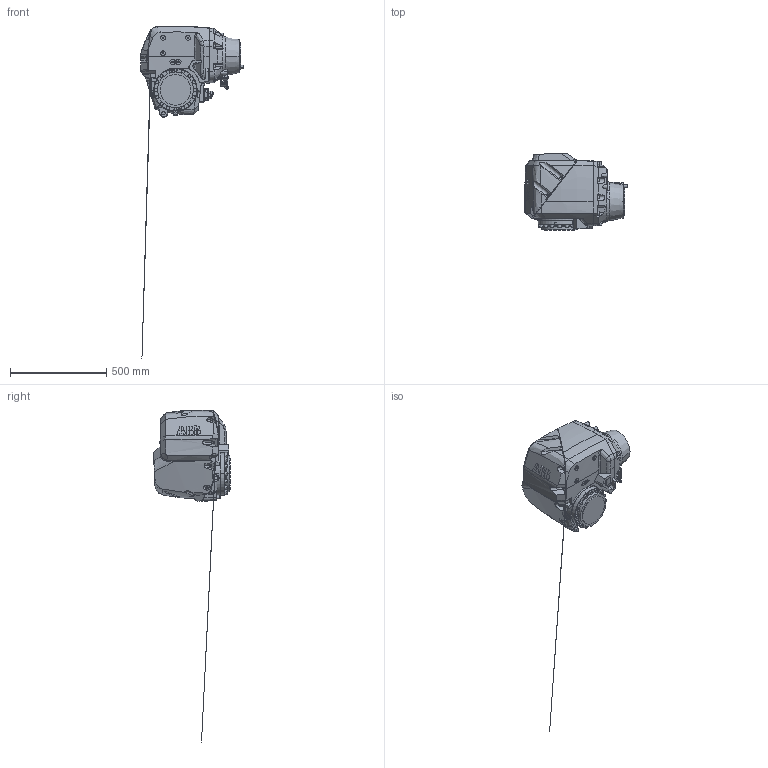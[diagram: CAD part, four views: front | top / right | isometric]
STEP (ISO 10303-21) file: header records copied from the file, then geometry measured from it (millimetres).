
FILE_DESCRIPTION (( 'STEP AP214' ), '1' );
FILE_NAME ('IRB4600_60kg-205_LINK3_CAD_rev04.STEP', '2016-12-06T10:36:01', ( 'ABB' ), ( 'ABB' ), 'SwSTEP 2.0', 'SolidWorks 2014', '' );
FILE_SCHEMA (( 'AUTOMOTIVE_DESIGN' ));
Length unit declared in the file: millimetre
Products named in the file (1): IRB4600_60kg-205_LINK3_CAD_rev04
Bounding box: 533.59 x 398.61 x 1726.97 mm (x, y, z)
Volume: 51158493.6 mm3; surface area: 1002881.2 mm2
Topology: 2 solids, 2 shells, 1073 faces, 2766 edges, 1758 vertices
Faces by surface type: plane 490, cylinder 264, cone 135, bspline 123, torus 54, sphere 7
Entity records: 59007 total; most frequent: CARTESIAN_POINT 22308, ORIENTED_EDGE 5458, DIRECTION 4793, EDGE_CURVE 2729, AXIS2_PLACEMENT_3D 1793, VERTEX_POINT 1758, VECTOR 1207, LINE 1207
